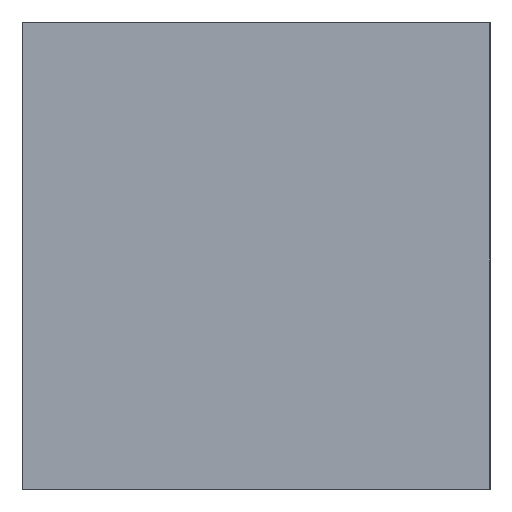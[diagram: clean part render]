
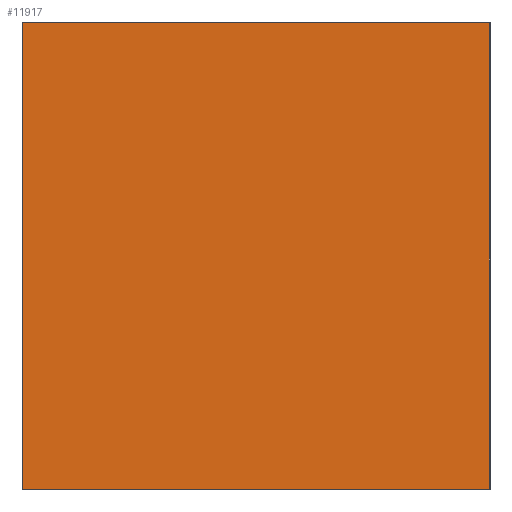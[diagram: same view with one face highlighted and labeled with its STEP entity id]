
A CAD part, top view. The second image highlights one B-rep face of the part: STEP entity #11917.
In plain terms, the highlighted planar face has unit normal (0, 0, 1).
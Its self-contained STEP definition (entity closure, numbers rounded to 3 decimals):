
#11878=CARTESIAN_POINT('',(0.,0.,20.));
#11879=DIRECTION('',(1.,0.,0.));
#11880=DIRECTION('',(0.,0.,1.));
#11881=AXIS2_PLACEMENT_3D('',#11878,#11880,#11879);
#11882=PLANE('',#11881);
#11883=CARTESIAN_POINT('',(398.5,-398.5,20.));
#11884=VERTEX_POINT('',#11883);
#11885=CARTESIAN_POINT('',(398.5,398.5,20.));
#11886=VERTEX_POINT('',#11885);
#11887=CARTESIAN_POINT('',(398.5,-398.5,20.));
#11888=DIRECTION('',(0.,1.,0.));
#11889=VECTOR('',#11888,797.);
#11890=LINE('',#11887,#11889);
#11891=EDGE_CURVE('',#11884,#11886,#11890,.T.);
#11892=ORIENTED_EDGE('E118',*,*,#11891,.T.);
#11893=CARTESIAN_POINT('',(-398.5,398.5,20.));
#11894=VERTEX_POINT('',#11893);
#11895=CARTESIAN_POINT('',(398.5,398.5,20.));
#11896=DIRECTION('',(-1.,0.,0.));
#11897=VECTOR('',#11896,797.);
#11898=LINE('',#11895,#11897);
#11899=EDGE_CURVE('',#11886,#11894,#11898,.T.);
#11900=ORIENTED_EDGE('E119',*,*,#11899,.T.);
#11901=CARTESIAN_POINT('',(-398.5,-398.5,20.));
#11902=VERTEX_POINT('',#11901);
#11903=CARTESIAN_POINT('',(-398.5,398.5,20.));
#11904=DIRECTION('',(0.,-1.,0.));
#11905=VECTOR('',#11904,797.);
#11906=LINE('',#11903,#11905);
#11907=EDGE_CURVE('',#11894,#11902,#11906,.T.);
#11908=ORIENTED_EDGE('E120',*,*,#11907,.T.);
#11909=CARTESIAN_POINT('',(-398.5,-398.5,20.));
#11910=DIRECTION('',(1.,0.,0.));
#11911=VECTOR('',#11910,797.);
#11912=LINE('',#11909,#11911);
#11913=EDGE_CURVE('',#11902,#11884,#11912,.T.);
#11914=ORIENTED_EDGE('E117',*,*,#11913,.T.);
#11915=EDGE_LOOP('',(#11892,#11900,#11908,#11914));
#11916=FACE_OUTER_BOUND('',#11915,.T.);
#11917=ADVANCED_FACE('F2',(#11916),#11882,.T.);
